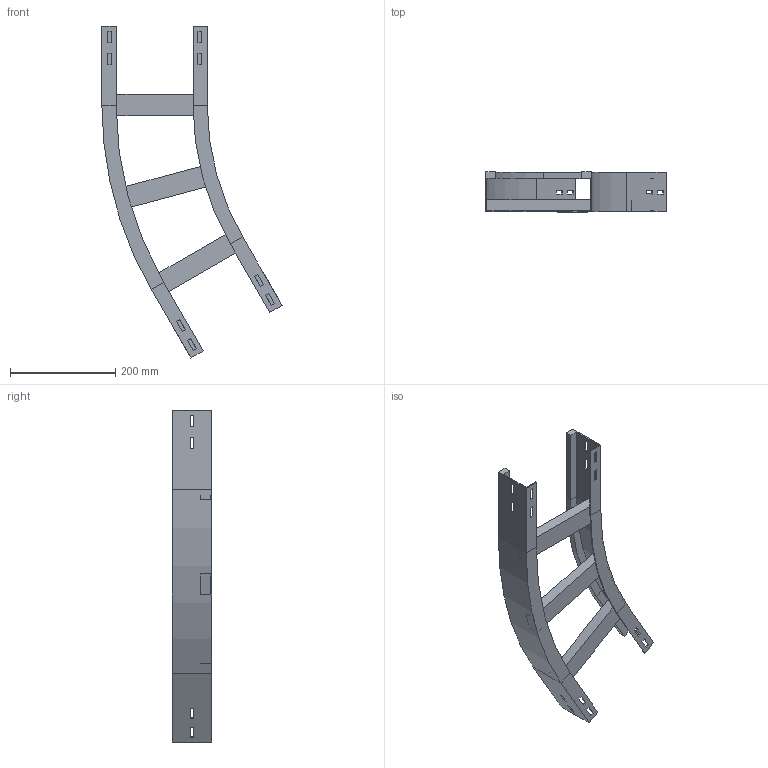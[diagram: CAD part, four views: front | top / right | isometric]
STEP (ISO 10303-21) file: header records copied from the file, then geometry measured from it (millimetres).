
FILE_DESCRIPTION (( 'STEP AP214' ), '1' );
FILE_NAME ('12B5C200.step', '2025-02-21T15:09:58', ( '' ), ( '' ), 'SwSTEP 2.0', 'SolidWorks 2023', '' );
FILE_SCHEMA (( 'AUTOMOTIVE_DESIGN' ));
Length unit declared in the file: millimetre
Products named in the file (4): A2_LONGH.ESTERNO 30°_H75_R500+200; A2_LONGH.INTERNO 30°_H75_R500; TRAVERSINO_200; 12B5C200
Assembly tree (5 placements, depth 2):
  12B5C200
    A2_LONGH.INTERNO 30°_H75_R500
    A2_LONGH.ESTERNO 30°_H75_R500+200
    TRAVERSINO_200  x3
Bounding box: 341.99 x 75 x 629.9 mm (x, y, z)
Volume: 952852.9 mm3; surface area: 364387.2 mm2
Topology: 5 solids, 5 shells, 134 faces, 340 edges, 216 vertices
Faces by surface type: plane 126, cylinder 8
Entity records: 3821 total; most frequent: CARTESIAN_POINT 646, ORIENTED_EDGE 632, DIRECTION 592, EDGE_CURVE 316, LINE 300, VECTOR 300, VERTEX_POINT 200, EDGE_LOOP 154
